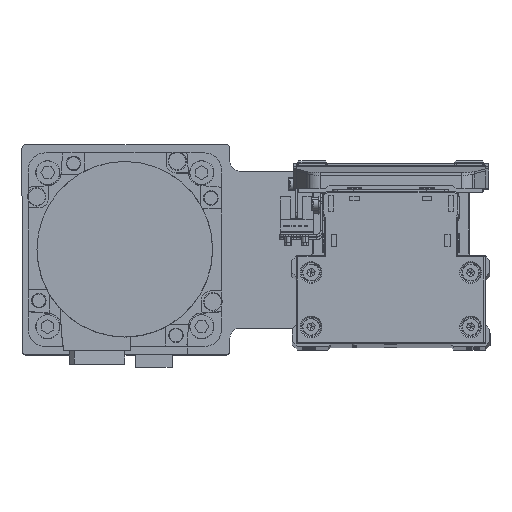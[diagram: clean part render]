
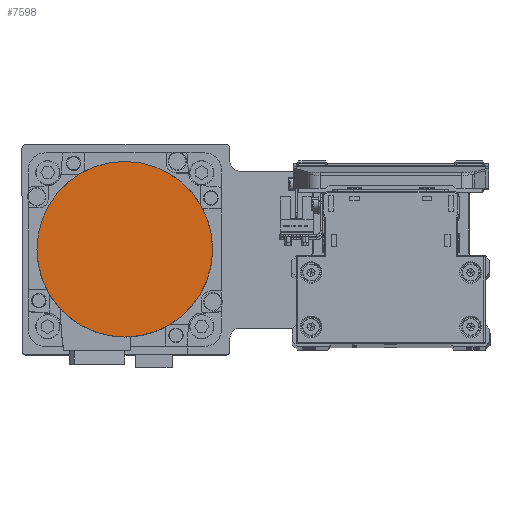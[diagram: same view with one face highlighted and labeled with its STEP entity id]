
A CAD part, top view. The second image highlights one B-rep face of the part: STEP entity #7598.
In plain terms, the highlighted planar face has unit normal (0, 0, 1) as drawn and (0, 0, -1) by its records, which use the part's own axes.
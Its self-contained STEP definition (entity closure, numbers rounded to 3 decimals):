
#977 = DIRECTION ( 'NONE',  ( 1., 0., 0. ) ) ;
#1978 = ORIENTED_EDGE ( 'NONE', *, *, #24987, .F. ) ;
#3280 = CARTESIAN_POINT ( 'NONE',  ( 0., 0., -122.2 ) ) ;
#4012 = PLANE ( 'NONE',  #30787 ) ;
#7598 = ADVANCED_FACE ( 'NONE', ( #31612 ), #4012, .F. ) ;
#8437 = AXIS2_PLACEMENT_3D ( 'NONE', #13506, #25792, #38065 ) ;
#9335 = CIRCLE ( 'NONE', #31866, 36.3 ) ;
#9432 = ORIENTED_EDGE ( 'NONE', *, *, #38390, .F. ) ;
#13506 = CARTESIAN_POINT ( 'NONE',  ( 0., 0., -122.2 ) ) ;
#15569 = DIRECTION ( 'NONE',  ( 0., 0., 1. ) ) ;
#16308 = CARTESIAN_POINT ( 'NONE',  ( 0., 0., -122.2 ) ) ;
#17721 = VERTEX_POINT ( 'NONE', #25723 ) ;
#18925 = CARTESIAN_POINT ( 'NONE',  ( 0., -36.3, -122.2 ) ) ;
#24987 = EDGE_CURVE ( 'NONE', #17721, #35241, #9335, .T. ) ;
#25723 = CARTESIAN_POINT ( 'NONE',  ( 0., 36.3, -122.2 ) ) ;
#25792 = DIRECTION ( 'NONE',  ( 0., 0., 1. ) ) ;
#25813 = CIRCLE ( 'NONE', #8437, 36.3 ) ;
#27835 = DIRECTION ( 'NONE',  ( 0., 1., 0. ) ) ;
#28575 = DIRECTION ( 'NONE',  ( 0., 0., 1. ) ) ;
#30787 = AXIS2_PLACEMENT_3D ( 'NONE', #16308, #28575, #977 ) ;
#31612 = FACE_OUTER_BOUND ( 'NONE', #32193, .T. ) ;
#31866 = AXIS2_PLACEMENT_3D ( 'NONE', #3280, #15569, #27835 ) ;
#32193 = EDGE_LOOP ( 'NONE', ( #1978, #9432 ) ) ;
#35241 = VERTEX_POINT ( 'NONE', #18925 ) ;
#38065 = DIRECTION ( 'NONE',  ( 0., -1., 0. ) ) ;
#38390 = EDGE_CURVE ( 'NONE', #35241, #17721, #25813, .T. ) ;
